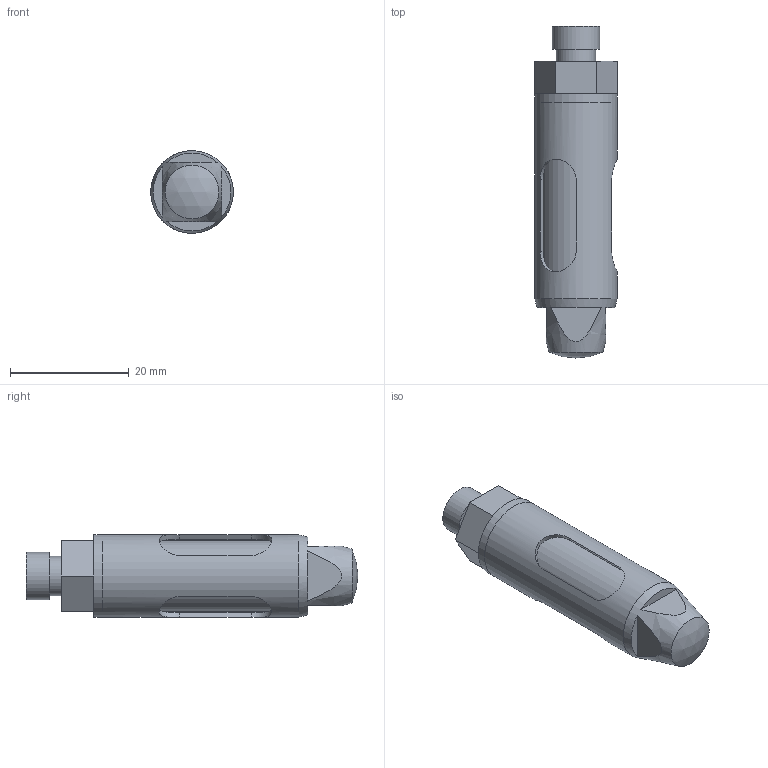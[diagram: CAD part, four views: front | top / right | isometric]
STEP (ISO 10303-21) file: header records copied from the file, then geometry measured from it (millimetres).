
FILE_DESCRIPTION(/* description */ (''),/* implementation_level */ '2;1');
FILE_NAME(/* name */ 'T:\Anwender\Praktikant\Tobias Könemund\Innengreifer\Parametrisch\G-GI014_vereinfacht.stp',/* time_stamp */ '2015-10-30T08:19:52+01:00',/* author */ ('Praktikant'),/* organization */ ('GRIP GmbH'),/* preprocessor_version */ 'ST-DEVELOPER v15.2',/* originating_system */ 'Autodesk Inventor 2014',/* authorisation */ '');
FILE_SCHEMA (('AUTOMOTIVE_DESIGN { 1 0 10303 214 3 1 1 }'));
Length unit declared in the file: millimetre
Products named in the file (3): G-GI014-2.1-1 Dorn_vereinfacht-07; G-GI014-1.1-1 Hülse_vereinfacht-12; Baugruppe_vereinfacht
Bounding box: 13.9 x 55.9 x 13.9 mm (x, y, z)
Volume: 6353.6 mm3; surface area: 4709 mm2
Topology: 2 solids, 2 shells, 44 faces, 98 edges, 65 vertices
Faces by surface type: plane 28, cylinder 13, cone 2, sphere 1
Full cylindrical faces by diameter (mm): 5 x1, 6.6 x1, 8 x1, 11.9 x1, 12.3 x1, 13.9 x2
Entity records: 1364 total; most frequent: CARTESIAN_POINT 401, DIRECTION 182, ORIENTED_EDGE 162, EDGE_CURVE 81, EDGE_LOOP 68, AXIS2_PLACEMENT_3D 68, VERTEX_POINT 59, LINE 46
